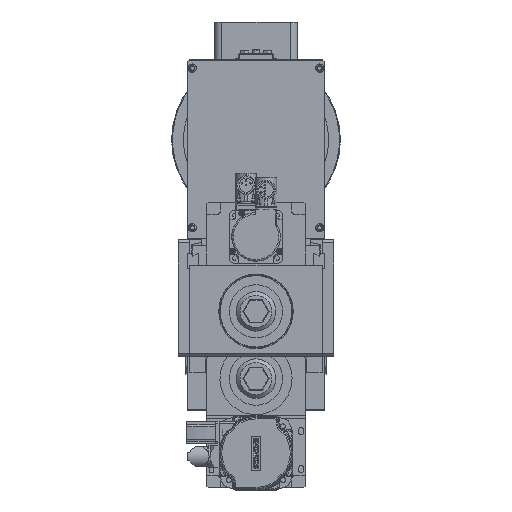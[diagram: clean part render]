
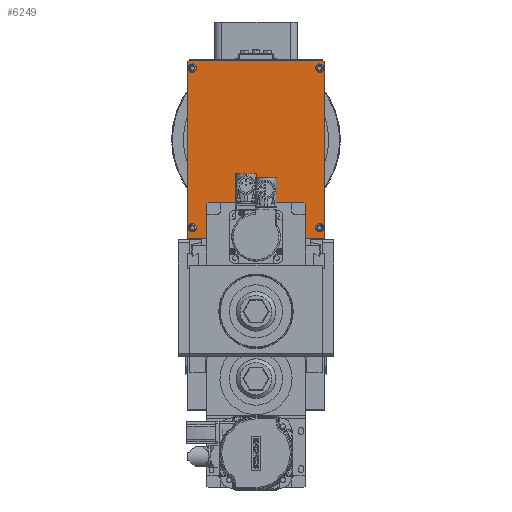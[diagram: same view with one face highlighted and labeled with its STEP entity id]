
A CAD part, left-side view. The second image highlights one B-rep face of the part: STEP entity #6249.
In plain terms, the highlighted planar face has unit normal (-1, 0, 0) as drawn and (0, 0, 1) by its records, which use the part's own axes.
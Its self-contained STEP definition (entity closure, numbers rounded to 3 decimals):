
#6249=ADVANCED_FACE('',(#11320,#11321,#11322,#11323,#11324),#11325,.T.);
#11320=FACE_OUTER_BOUND('',#17874,.T.);
#11321=FACE_BOUND('',#17875,.T.);
#11322=FACE_BOUND('',#17876,.T.);
#11323=FACE_BOUND('',#17877,.T.);
#11324=FACE_BOUND('',#17878,.T.);
#11325=PLANE('',#17879);
#17874=EDGE_LOOP('',(#45683,#45684,#45685,#45686,#45687,#45688));
#17875=EDGE_LOOP('',(#45689));
#17876=EDGE_LOOP('',(#45690));
#17877=EDGE_LOOP('',(#45691));
#17878=EDGE_LOOP('',(#45692));
#17879=AXIS2_PLACEMENT_3D('',#45693,#45694,#45695);
#45683=ORIENTED_EDGE('',*,*,#56066,.F.);
#45684=ORIENTED_EDGE('',*,*,#56067,.F.);
#45685=ORIENTED_EDGE('',*,*,#56068,.F.);
#45686=ORIENTED_EDGE('',*,*,#56069,.F.);
#45687=ORIENTED_EDGE('',*,*,#56070,.F.);
#45688=ORIENTED_EDGE('',*,*,#56071,.F.);
#45689=ORIENTED_EDGE('',*,*,#56072,.F.);
#45690=ORIENTED_EDGE('',*,*,#56073,.F.);
#45691=ORIENTED_EDGE('',*,*,#56065,.F.);
#45692=ORIENTED_EDGE('',*,*,#56074,.F.);
#45693=CARTESIAN_POINT('',(-85.,-113.611,5.556));
#45694=DIRECTION('',(0.,0.,1.));
#45695=DIRECTION('',(1.,0.,0.));
#56065=EDGE_CURVE('',#65259,#65259,#65260,.T.);
#56066=EDGE_CURVE('',#65261,#65262,#65263,.T.);
#56067=EDGE_CURVE('',#65264,#65261,#65265,.T.);
#56068=EDGE_CURVE('',#65266,#65264,#65267,.T.);
#56069=EDGE_CURVE('',#65268,#65266,#65269,.T.);
#56070=EDGE_CURVE('',#65270,#65268,#65271,.T.);
#56071=EDGE_CURVE('',#65262,#65270,#65272,.T.);
#56072=EDGE_CURVE('',#65273,#65273,#65274,.T.);
#56073=EDGE_CURVE('',#65275,#65275,#65276,.T.);
#56074=EDGE_CURVE('',#65277,#65277,#65278,.T.);
#65259=VERTEX_POINT('',#82054);
#65260=CIRCLE('',#82055,3.75);
#65261=VERTEX_POINT('',#82056);
#65262=VERTEX_POINT('',#82057);
#65263=LINE('',#82058,#82059);
#65264=VERTEX_POINT('',#82060);
#65265=LINE('',#82061,#82062);
#65266=VERTEX_POINT('',#82063);
#65267=LINE('',#82064,#82065);
#65268=VERTEX_POINT('',#82066);
#65269=LINE('',#82067,#82068);
#65270=VERTEX_POINT('',#82069);
#65271=LINE('',#82070,#82071);
#65272=LINE('',#82072,#82073);
#65273=VERTEX_POINT('',#82074);
#65274=CIRCLE('',#82075,3.75);
#65275=VERTEX_POINT('',#82076);
#65276=CIRCLE('',#82077,3.75);
#65277=VERTEX_POINT('',#82078);
#65278=CIRCLE('',#82079,3.75);
#82054=CARTESIAN_POINT('',(2.75,-6.611,5.556));
#82055=AXIS2_PLACEMENT_3D('',#96110,#96111,#96112);
#82056=CARTESIAN_POINT('',(-172.793,3.389,5.556));
#82057=CARTESIAN_POINT('',(2.793,3.389,5.556));
#82058=CARTESIAN_POINT('',(-130.,3.389,5.556));
#82059=VECTOR('',#96113,1.);
#82060=CARTESIAN_POINT('',(-174.5,1.682,5.556));
#82061=CARTESIAN_POINT('',(-180.521,-4.34,5.556));
#82062=VECTOR('',#96114,1.);
#82063=CARTESIAN_POINT('',(-174.5,-230.611,5.556));
#82064=CARTESIAN_POINT('',(-174.5,-172.361,5.556));
#82065=VECTOR('',#96115,1.);
#82066=CARTESIAN_POINT('',(4.5,-230.611,5.556));
#82067=CARTESIAN_POINT('',(-40.,-230.611,5.556));
#82068=VECTOR('',#96116,1.);
#82069=CARTESIAN_POINT('',(4.5,1.682,5.556));
#82070=CARTESIAN_POINT('',(4.5,-54.861,5.556));
#82071=VECTOR('',#96117,1.);
#82072=CARTESIAN_POINT('',(10.521,-4.34,5.556));
#82073=VECTOR('',#96118,1.);
#82074=CARTESIAN_POINT('',(2.75,-216.611,5.556));
#82075=AXIS2_PLACEMENT_3D('',#96119,#96120,#96121);
#82076=CARTESIAN_POINT('',(-165.25,-216.611,5.556));
#82077=AXIS2_PLACEMENT_3D('',#96122,#96123,#96124);
#82078=CARTESIAN_POINT('',(-165.25,-6.611,5.556));
#82079=AXIS2_PLACEMENT_3D('',#96125,#96126,#96127);
#96110=CARTESIAN_POINT('',(-1.,-6.611,5.556));
#96111=DIRECTION('',(0.,0.,1.));
#96112=DIRECTION('',(-1.,0.,0.));
#96113=DIRECTION('',(1.,0.,0.));
#96114=DIRECTION('',(0.707,0.707,0.));
#96115=DIRECTION('',(0.,1.,0.));
#96116=DIRECTION('',(-1.,0.,0.));
#96117=DIRECTION('',(0.,-1.,0.));
#96118=DIRECTION('',(0.707,-0.707,0.));
#96119=CARTESIAN_POINT('',(-1.,-216.611,5.556));
#96120=DIRECTION('',(0.,0.,1.));
#96121=DIRECTION('',(-1.,0.,0.));
#96122=CARTESIAN_POINT('',(-169.,-216.611,5.556));
#96123=DIRECTION('',(0.,0.,1.));
#96124=DIRECTION('',(-1.,0.,0.));
#96125=CARTESIAN_POINT('',(-169.,-6.611,5.556));
#96126=DIRECTION('',(0.,0.,1.));
#96127=DIRECTION('',(-1.,0.,0.));
